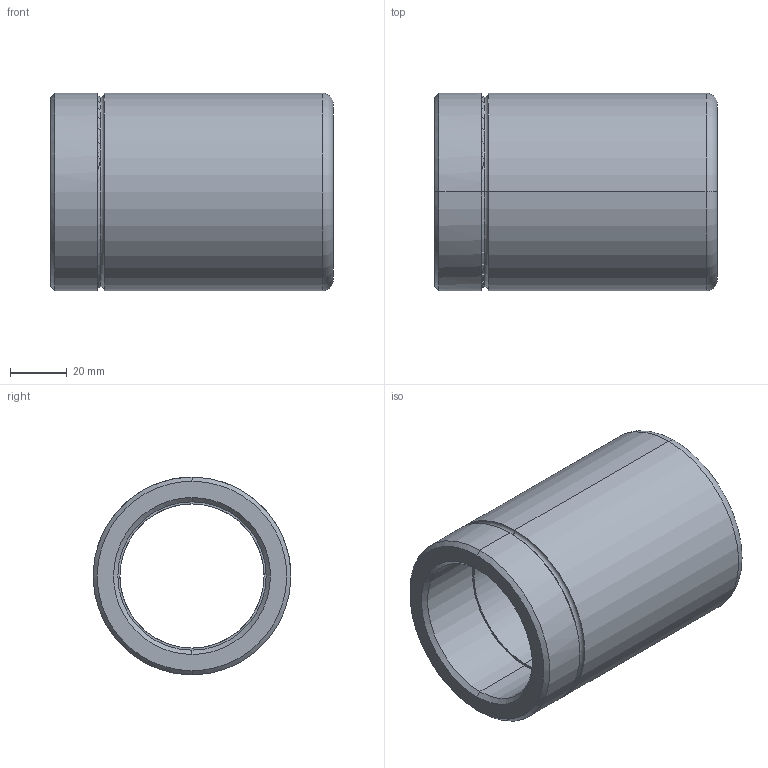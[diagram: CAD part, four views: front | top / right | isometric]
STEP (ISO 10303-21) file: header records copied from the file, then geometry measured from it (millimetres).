
FILE_DESCRIPTION(('CATIA V5 STEP Exchange'),'2;1');
FILE_NAME('C:\Users\Utente\Desktop\IO LAVORO\3D X SITO CF\X SITO\343-348\343-51 x 100.stp','2020-12-30T19:30:43+00:00',('none'),('none'),'CATIA Version 5 Release 20 GA (IN-10)','CATIA V5 STEP AP203','none');
FILE_SCHEMA(('CONFIG_CONTROL_DESIGN'));
Length unit declared in the file: millimetre
Products named in the file (1): 343-51 x 100
Bounding box: 100 x 70 x 70 mm (x, y, z)
Volume: 175189 mm3; surface area: 41658.5 mm2
Topology: 1 solids, 1 shells, 29 faces, 86 edges, 60 vertices
Faces by surface type: torus 12, cylinder 10, cone 4, plane 3
Entity records: 1166 total; most frequent: CARTESIAN_POINT 360, ORIENTED_EDGE 172, DIRECTION 130, AXIS2_PLACEMENT_3D 88, EDGE_CURVE 86, VERTEX_POINT 60, CIRCLE 58, EDGE_LOOP 32
